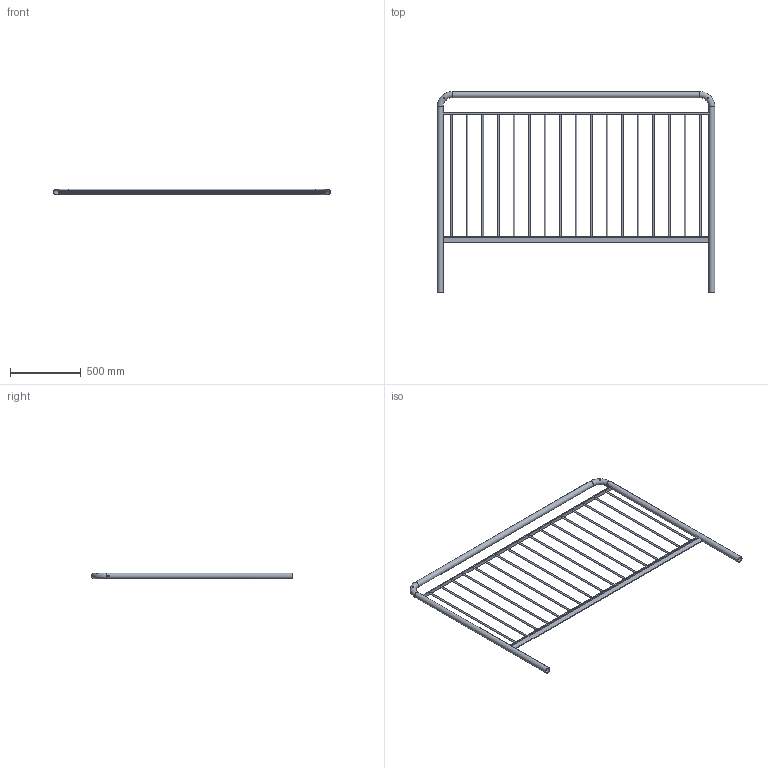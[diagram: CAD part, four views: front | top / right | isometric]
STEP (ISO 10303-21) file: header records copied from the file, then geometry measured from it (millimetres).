
FILE_DESCRIPTION((''),'2;1');
FILE_NAME('S:\Användarkataloger\AndreasA\Mina Inventor filer\Räcken\STEP\modul_bos_2000-1400.stp','2010-09-07T13:25:31',('AndreasA'),(''),'Autodesk Inventor 2011','Autodesk Inventor 2011','');
FILE_SCHEMA(('AUTOMOTIVE_DESIGN { 1 0 10303 214 1 1 1 1 }'));
Length unit declared in the file: millimetre
Products named in the file (4): modul_bos_2000-1400; handledare_modul_2000-1400; galleri_modul_2000; pls_modul_bos_2000
Assembly tree (3 placements, depth 2):
  modul_bos_2000-1400
    handledare_modul_2000-1400
    galleri_modul_2000
    pls_modul_bos_2000
Bounding box: 1965.4 x 1421.2 x 42.4 mm (x, y, z)
Volume: 3702848.5 mm3; surface area: 2102728.3 mm2
Topology: 3 solids, 3 shells, 55 faces, 145 edges, 94 vertices
Faces by surface type: cylinder 31, plane 20, torus 4
Full cylindrical faces by diameter (mm): 10 x4, 11 x21, 38.4 x3, 42.4 x3
Entity records: 2337 total; most frequent: CARTESIAN_POINT 962, DIRECTION 252, ORIENTED_EDGE 196, EDGE_LOOP 142, AXIS2_PLACEMENT_3D 108, EDGE_CURVE 98, FACE_BOUND 87, VERTEX_POINT 86
